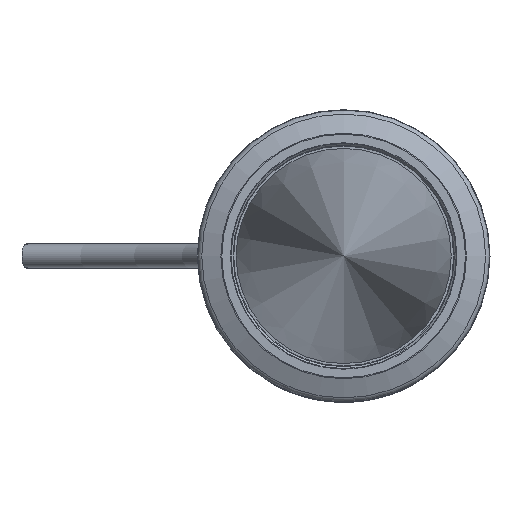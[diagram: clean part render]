
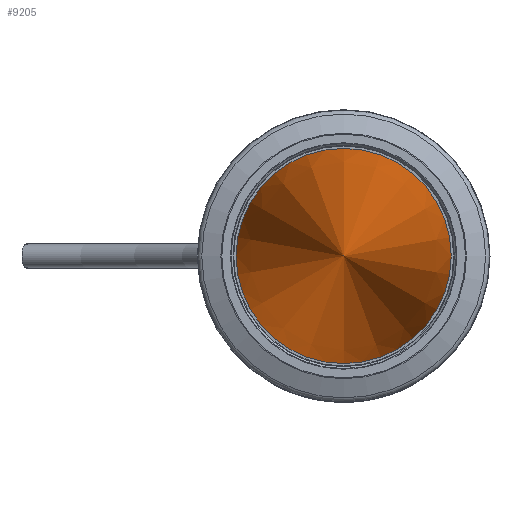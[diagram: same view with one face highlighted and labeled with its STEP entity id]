
A CAD part, front view. The second image highlights one B-rep face of the part: STEP entity #9205.
In plain terms, the highlighted conical face has half-angle 9.048 degrees and reference radius 159.236 mm.
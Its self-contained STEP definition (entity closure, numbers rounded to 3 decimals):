
#2423 = FACE_OUTER_BOUND ( 'NONE', #6465, .T. ) ;
#2568 = EDGE_CURVE ( 'NONE', #15419, #15419, #10552, .T. ) ;
#5654 = DIRECTION ( 'NONE',  ( 0., 1., 0. ) ) ;
#6465 = EDGE_LOOP ( 'NONE', ( #20399 ) ) ;
#7969 = CARTESIAN_POINT ( 'NONE',  ( 0., 921.5, 0. ) ) ;
#9205 = ADVANCED_FACE ( 'NONE', ( #2423 ), #13940, .T. ) ;
#9473 = DIRECTION ( 'NONE',  ( 0., 0., 1. ) ) ;
#9780 = CARTESIAN_POINT ( 'NONE',  ( 0., 0., 12.5 ) ) ;
#10552 = CIRCLE ( 'NONE', #19251, 12.5 ) ;
#13940 = CONICAL_SURFACE ( 'NONE', #22649, 159.236, 0.158 ) ;
#15419 = VERTEX_POINT ( 'NONE', #9780 ) ;
#19251 = AXIS2_PLACEMENT_3D ( 'NONE', #20840, #5654, #21091 ) ;
#20399 = ORIENTED_EDGE ( 'NONE', *, *, #2568, .F. ) ;
#20818 = DIRECTION ( 'NONE',  ( 0., 1., 0. ) ) ;
#20840 = CARTESIAN_POINT ( 'NONE',  ( 0., 0., 0. ) ) ;
#21091 = DIRECTION ( 'NONE',  ( 0., 0., 1. ) ) ;
#22649 = AXIS2_PLACEMENT_3D ( 'NONE', #7969, #20818, #9473 ) ;
